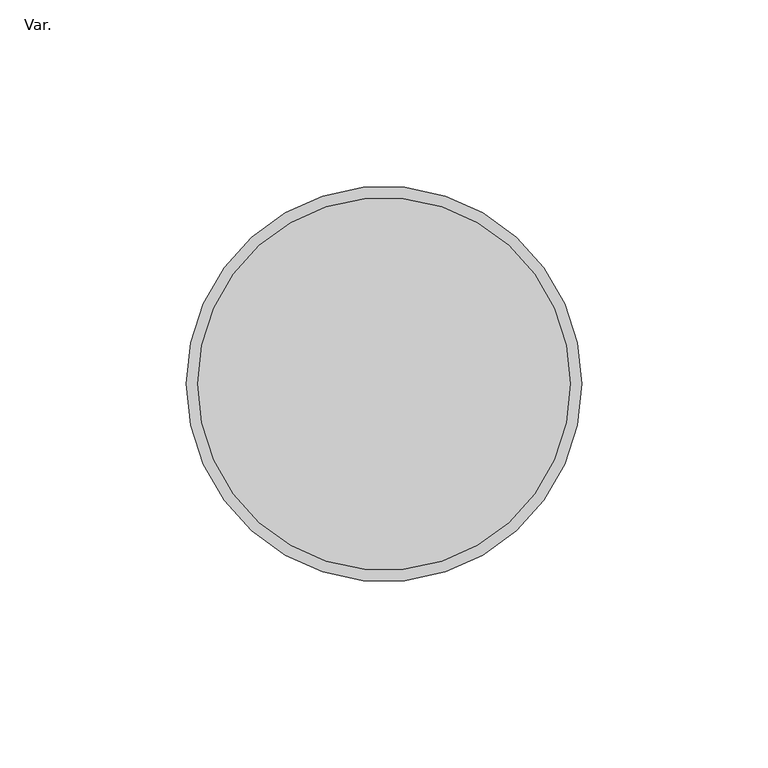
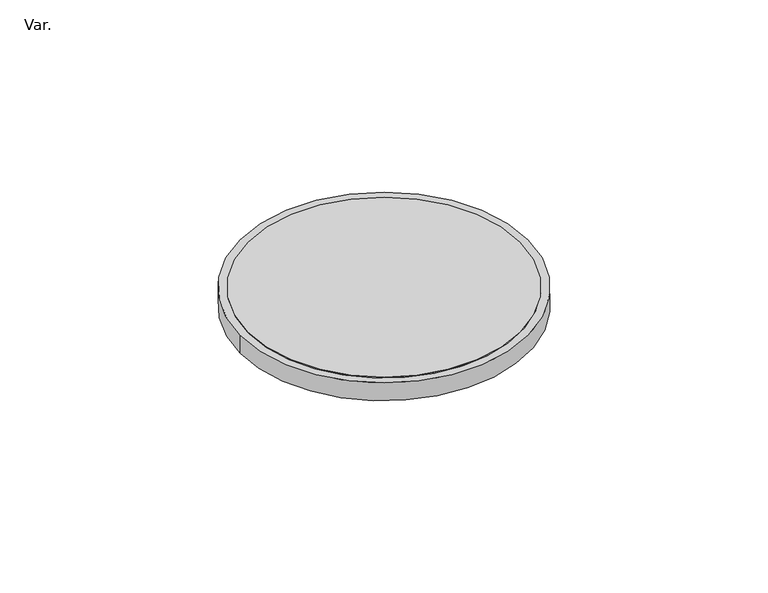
"""IFC4 building model written with IfcOpenShell, lengths in millimetres: pipe fitting geometry, AmancoWavin_ConexõesdeTubos_EsgotoRaloSifonadoCilindricocomProlongamento : Var.."""

from ifc_helpers import new_model, si_unit, point, frame, origin, origin_2d, place, context, project, spatial, circle_curve, trimmed, segment, composite_curve, outline, extrude, source, transform, mapped, element, save


def var_d8ce8ba5(model_context):
    return source(origin(), model_context, "Body", "SweptSolid", [
        extrude(outline(composite_curve([segment(trimmed(circle_curve(origin_2d(), 50.0), [point((-50.0, 0.0))], [point((50.0, 0.0))], False, "CARTESIAN"), True, "CONTINUOUS"), segment(trimmed(circle_curve(origin_2d(), 50.0), [point((50.0, 0.0))], [point((-50.0, 0.0))], False, "CARTESIAN"), True, "CONTINUOUS")], self_intersect=False)), frame((0.0, 0.0, 65.286551), z_axis=(0.0, 0.0, 1.0), x_axis=(1.0, 0.0, 0.0)), (0.0, 0.0, 1.0), 7.1),
        extrude(outline(composite_curve([segment(trimmed(circle_curve(origin_2d(), 53.0), [point((-53.0, 0.0))], [point((53.0, 0.0))], False, "CARTESIAN"), True, "CONTINUOUS"), segment(trimmed(circle_curve(origin_2d(), 53.0), [point((53.0, 0.0))], [point((-53.0, 0.0))], False, "CARTESIAN"), True, "CONTINUOUS")], self_intersect=False)), frame((0.0, 0.0, 65.286551), z_axis=(0.0, 0.0, 1.0), x_axis=(1.0, 0.0, 0.0)), (0.0, 0.0, 1.0), 7.0),
    ])


if __name__ == "__main__":
    model = new_model("IFC4")
    model_context = context("Model", 3, world=origin())
    ifc_project = project(units=[si_unit("LENGTHUNIT", "METRE", prefix="MILLI")], contexts=[model_context])
    site = spatial("IfcSite", under=ifc_project)
    building = spatial("IfcBuilding", under=site)
    placement = place(None, origin())
    var_shape = var_d8ce8ba5(model_context)
    element("IfcPipeFitting", 1, ObjectType="AmancoWavin_ConexõesdeTubos_EsgotoRaloSifonadoCilindricocomProlongamento : Var.", at=placement, inside=building, context=model_context, shape_type="MappedRepresentation", body=[
        mapped(var_shape, transform((0.0, 0.0, 0.0), x_axis=(1.0, 0.0, 0.0), y_axis=(0.0, 1.0, 0.0), z_axis=(0.0, 0.0, 1.0))),
    ])
    save(model, "model.ifc")
